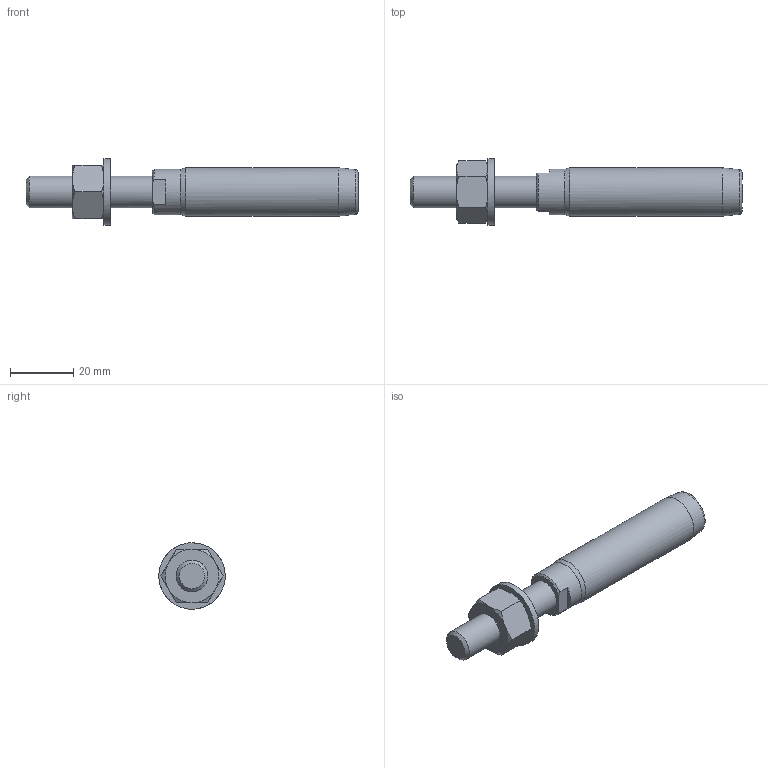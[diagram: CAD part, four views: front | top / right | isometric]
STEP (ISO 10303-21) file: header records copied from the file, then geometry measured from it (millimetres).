
FILE_DESCRIPTION(/* description */ (''),/* implementation_level */ '2;1');
FILE_NAME(/* name */ 'FLT 06_1,4462',/* time_stamp */ '2023-05-23T15:58:03+02:00',/* author */ (''),/* organization */ (''),/* preprocessor_version */ 'ST-DEVELOPER v16.5',/* originating_system */ 'Rhino 7.22',/* authorisation */ '');
FILE_SCHEMA (('CONFIG_CONTROL_DESIGN'));
Length unit declared in the file: millimetre
Products named in the file (1): Document
Bounding box: 105 x 20.99 x 20.99 mm (x, y, z)
Volume: 17178.8 mm3; surface area: 6539.3 mm2
Topology: 3 solids, 3 shells, 43 faces, 104 edges, 68 vertices
Faces by surface type: bspline 20, plane 17, cylinder 6
Full cylindrical faces by diameter (mm): 8.376 x1, 10 x1, 10.5 x1, 14.5 x1, 15.3 x1, 21 x1
Entity records: 1590 total; most frequent: CARTESIAN_POINT 881, ORIENTED_EDGE 208, EDGE_CURVE 104, VERTEX_POINT 68, EDGE_LOOP 48, ADVANCED_FACE 43, FACE_OUTER_BOUND 43, DIRECTION 27
